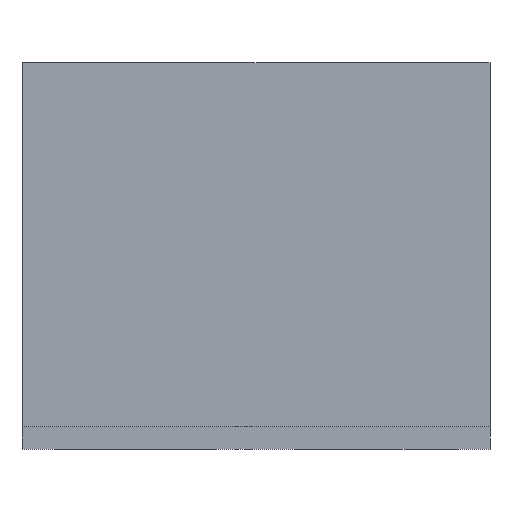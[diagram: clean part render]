
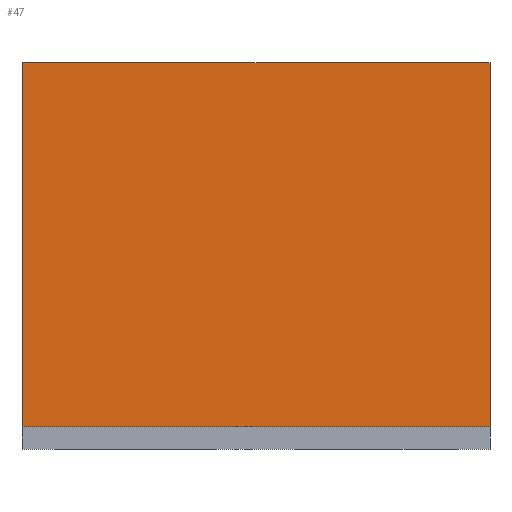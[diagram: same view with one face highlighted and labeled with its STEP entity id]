
A CAD part, front view. The second image highlights one B-rep face of the part: STEP entity #47.
In plain terms, the highlighted planar face has unit normal (0, -1, 0).
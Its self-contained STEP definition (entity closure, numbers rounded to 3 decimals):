
#47 = ADVANCED_FACE('',(#48),#82,.F.);
#48 = FACE_BOUND('',#49,.F.);
#49 = EDGE_LOOP('',(#50,#60,#68,#76));
#50 = ORIENTED_EDGE('',*,*,#51,.T.);
#51 = EDGE_CURVE('',#52,#54,#56,.T.);
#52 = VERTEX_POINT('',#53);
#53 = CARTESIAN_POINT('',(0.,0.,0.));
#54 = VERTEX_POINT('',#55);
#55 = CARTESIAN_POINT('',(0.,0.,21.));
#56 = LINE('',#57,#58);
#57 = CARTESIAN_POINT('',(0.,0.,0.));
#58 = VECTOR('',#59,1.);
#59 = DIRECTION('',(0.,0.,1.));
#60 = ORIENTED_EDGE('',*,*,#61,.T.);
#61 = EDGE_CURVE('',#54,#62,#64,.T.);
#62 = VERTEX_POINT('',#63);
#63 = CARTESIAN_POINT('',(27.,0.,21.));
#64 = LINE('',#65,#66);
#65 = CARTESIAN_POINT('',(0.,0.,21.));
#66 = VECTOR('',#67,1.);
#67 = DIRECTION('',(1.,0.,0.));
#68 = ORIENTED_EDGE('',*,*,#69,.F.);
#69 = EDGE_CURVE('',#70,#62,#72,.T.);
#70 = VERTEX_POINT('',#71);
#71 = CARTESIAN_POINT('',(27.,0.,0.));
#72 = LINE('',#73,#74);
#73 = CARTESIAN_POINT('',(27.,0.,0.));
#74 = VECTOR('',#75,1.);
#75 = DIRECTION('',(0.,0.,1.));
#76 = ORIENTED_EDGE('',*,*,#77,.F.);
#77 = EDGE_CURVE('',#52,#70,#78,.T.);
#78 = LINE('',#79,#80);
#79 = CARTESIAN_POINT('',(0.,0.,0.));
#80 = VECTOR('',#81,1.);
#81 = DIRECTION('',(1.,0.,0.));
#82 = PLANE('',#83);
#83 = AXIS2_PLACEMENT_3D('',#84,#85,#86);
#84 = CARTESIAN_POINT('',(0.,0.,0.));
#85 = DIRECTION('',(0.,1.,0.));
#86 = DIRECTION('',(1.,0.,0.));
